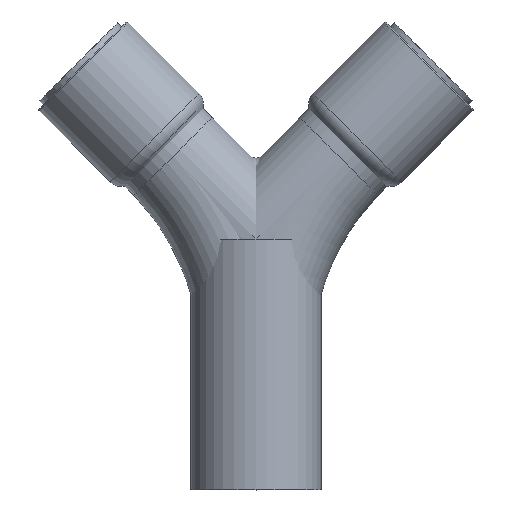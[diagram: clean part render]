
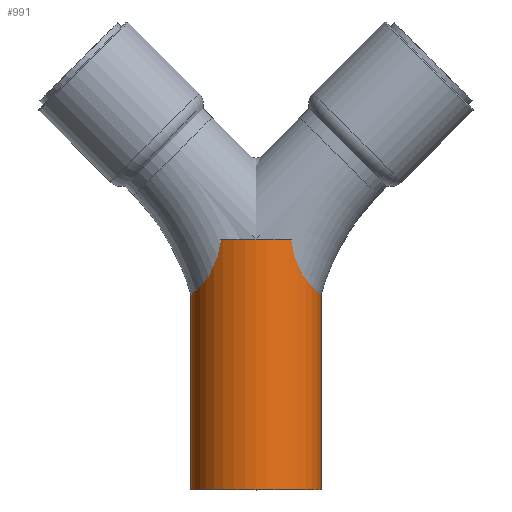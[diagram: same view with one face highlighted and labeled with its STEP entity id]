
A CAD part, top view. The second image highlights one B-rep face of the part: STEP entity #991.
In plain terms, the highlighted cylindrical face has radius 13 mm (diameter 26 mm), a full revolution.
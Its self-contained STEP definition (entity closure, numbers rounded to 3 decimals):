
#991=ADVANCED_FACE('',(#1230,#1231),#1199,.T.);
#1199=CYLINDRICAL_SURFACE('',#3420,13.);
#1230=FACE_BOUND('',#1304,.T.);
#1231=FACE_BOUND('',#1305,.T.);
#1304=EDGE_LOOP('',(#1560));
#1305=EDGE_LOOP('',(#1561));
#1560=ORIENTED_EDGE('',*,*,#2810,.F.);
#1561=ORIENTED_EDGE('',*,*,#2811,.T.);
#2504=VERTEX_POINT('',#4484);
#2505=VERTEX_POINT('',#4486);
#2810=EDGE_CURVE('',#2504,#2504,#3286,.T.);
#2811=EDGE_CURVE('',#2505,#2505,#3287,.T.);
#3286=CIRCLE('',#3418,13.);
#3287=CIRCLE('',#3419,13.);
#3418=AXIS2_PLACEMENT_3D('',#4483,#3736,#3737);
#3419=AXIS2_PLACEMENT_3D('',#4485,#3738,#3739);
#3420=AXIS2_PLACEMENT_3D('',#4487,#3740,#3741);
#3736=DIRECTION('',(0.,1.,0.));
#3737=DIRECTION('',(-1.,0.,0.));
#3738=DIRECTION('',(0.,1.,0.));
#3739=DIRECTION('',(-1.,0.,0.));
#3740=DIRECTION('',(0.,-1.,0.));
#3741=DIRECTION('',(1.,0.,0.));
#4483=CARTESIAN_POINT('',(64.,50.,-82.));
#4484=CARTESIAN_POINT('',(51.,50.,-82.));
#4485=CARTESIAN_POINT('',(64.,0.,-82.));
#4486=CARTESIAN_POINT('',(51.,0.,-82.));
#4487=CARTESIAN_POINT('',(64.,50.,-82.));
